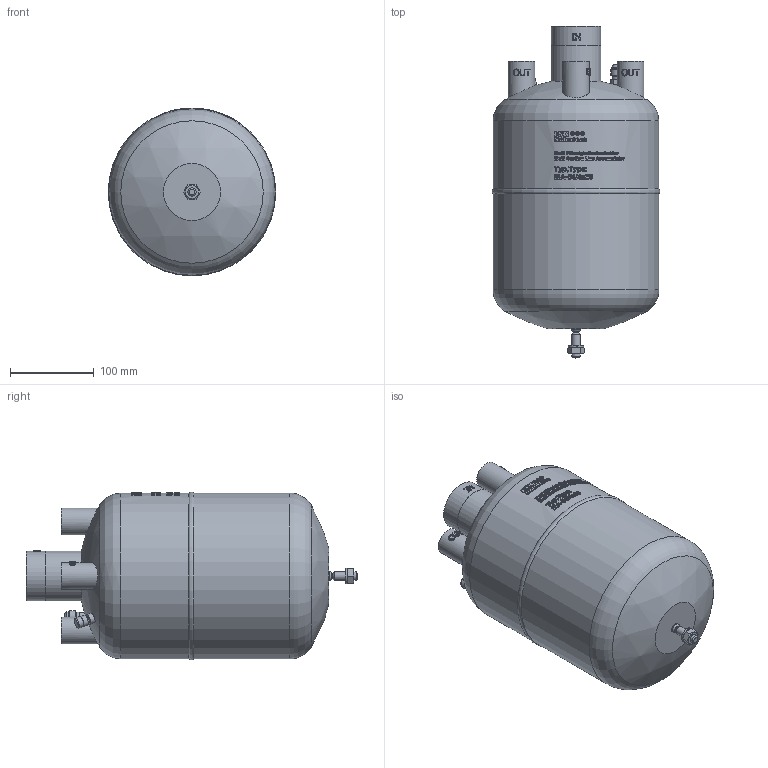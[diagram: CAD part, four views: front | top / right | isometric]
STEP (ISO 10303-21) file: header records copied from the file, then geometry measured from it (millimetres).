
FILE_DESCRIPTION(/* description */ (''),/* implementation_level */ '2;1');
FILE_NAME(/* name */ 'P:\MA\MA-54_4x28\MA-54_4x28_ab 300517.stp',/* time_stamp */ '2017-05-30T10:03:16+02:00',/* author */ ('Goerner'),/* organization */ (''),/* preprocessor_version */ 'ST-DEVELOPER v16.1',/* originating_system */ 'Autodesk Inventor 2016',/* authorisation */ '');
FILE_SCHEMA (('AUTOMOTIVE_DESIGN { 1 0 10303 214 3 1 1 }'));
Length unit declared in the file: millimetre
Products named in the file (1): MA-54_4x28_Rev.1_AG-Kunde
Bounding box: 200.12 x 396.31 x 200.14 mm (x, y, z)
Volume: 8382875.5 mm3; surface area: 259142 mm2
Topology: 1 solids, 6 shells, 1638 faces, 4377 edges, 2910 vertices
Faces by surface type: plane 890, bspline 534, cylinder 179, cone 25, torus 7, sphere 3
Full cylindrical faces by diameter (mm): 1.372 x1, 1.524 x1, 1.778 x1, 1.829 x1, 3.2 x1, 3.7 x2, 3.886 x1, 4.64 x2, 5.4 x1, 7 x1, 7.2 x1, 8.9 x2, 9.8 x1, 10 x3, 11.5 x1, 12 x1, 12.3 x1, 12.7 x1, 12.9 x1, 13.5 x1, 15.7 x1, 16 x1, 28.7 x4, 32 x4, 54.3 x1, 59 x1, 59.5 x1, 198 x2
Entity records: 62027 total; most frequent: CARTESIAN_POINT 23906, ORIENTED_EDGE 8574, DIRECTION 6551, EDGE_CURVE 4287, VERTEX_POINT 2890, AXIS2_PLACEMENT_3D 2254, LINE 2043, VECTOR 2043
